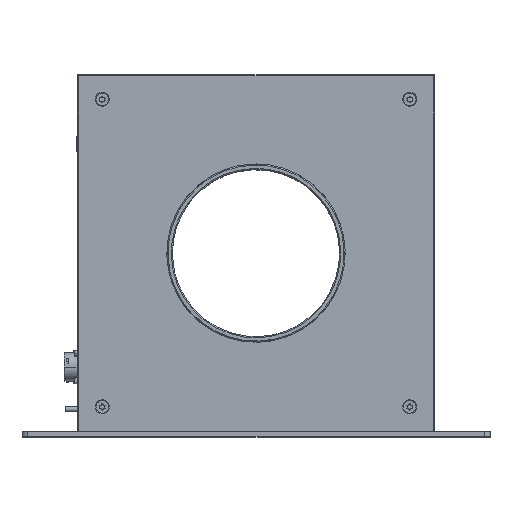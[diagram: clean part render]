
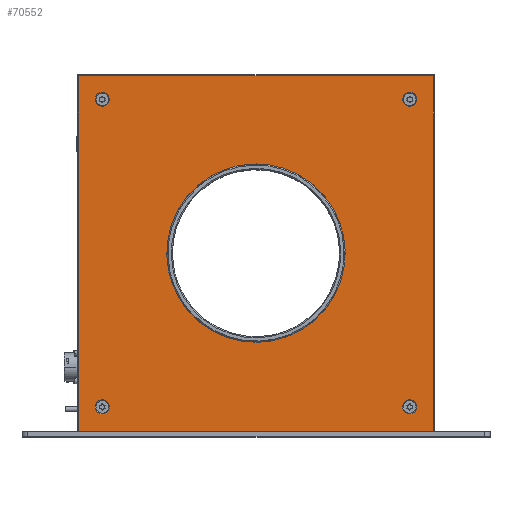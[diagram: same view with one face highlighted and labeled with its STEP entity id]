
A CAD part, top view. The second image highlights one B-rep face of the part: STEP entity #70552.
In plain terms, the highlighted planar face has unit normal (0, 0, 1).
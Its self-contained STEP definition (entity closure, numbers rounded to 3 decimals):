
#2227 = CARTESIAN_POINT ( 'NONE',  ( -35.574, 205.215, 388.556 ) ) ;
#2293 = AXIS2_PLACEMENT_3D ( 'NONE', #57078, #116714, #24958 ) ;
#4712 = CARTESIAN_POINT ( 'NONE',  ( 102.183, 342.972, 388.556 ) ) ;
#10696 = EDGE_CURVE ( 'NONE', #127913, #118549, #119993, .T. ) ;
#12430 = AXIS2_PLACEMENT_3D ( 'NONE', #82660, #81714, #51384 ) ;
#13490 = CARTESIAN_POINT ( 'NONE',  ( 123.183, 44.972, 388.556 ) ) ;
#14971 = VECTOR ( 'NONE', #24189, 1000. ) ;
#15058 = FACE_BOUND ( 'NONE', #70583, .T. ) ;
#15350 = ORIENTED_EDGE ( 'NONE', *, *, #10696, .F. ) ;
#16759 = ORIENTED_EDGE ( 'NONE', *, *, #34316, .F. ) ;
#20572 = AXIS2_PLACEMENT_3D ( 'NONE', #2227, #74572, #148030 ) ;
#23847 = AXIS2_PLACEMENT_3D ( 'NONE', #171073, #37029, #96635 ) ;
#24189 = DIRECTION ( 'NONE',  ( 0., -1., 0. ) ) ;
#24958 = DIRECTION ( 'NONE',  ( 1., 0., 0. ) ) ;
#25232 = DIRECTION ( 'NONE',  ( -1., 0., 0. ) ) ;
#26373 = VECTOR ( 'NONE', #113511, 1000. ) ;
#27168 = CIRCLE ( 'NONE', #123830, 6.3 ) ;
#27450 = VERTEX_POINT ( 'NONE', #185308 ) ;
#29003 = EDGE_LOOP ( 'NONE', ( #16759, #72407 ) ) ;
#29161 = CARTESIAN_POINT ( 'NONE',  ( -194.817, 363.972, 388.556 ) ) ;
#30638 = DIRECTION ( 'NONE',  ( -1., 0., 0. ) ) ;
#31865 = EDGE_CURVE ( 'NONE', #141277, #182936, #145607, .T. ) ;
#32399 = EDGE_LOOP ( 'NONE', ( #126329, #170514, #149309, #182625 ) ) ;
#34316 = EDGE_CURVE ( 'NONE', #191826, #71406, #37101, .T. ) ;
#37029 = DIRECTION ( 'NONE',  ( 0., 0., 1. ) ) ;
#37101 = CIRCLE ( 'NONE', #115113, 6.3 ) ;
#37284 = VERTEX_POINT ( 'NONE', #180439 ) ;
#37307 = AXIS2_PLACEMENT_3D ( 'NONE', #57373, #117962, #55463 ) ;
#38262 = CARTESIAN_POINT ( 'NONE',  ( 108.483, 342.972, 388.556 ) ) ;
#39044 = CARTESIAN_POINT ( 'NONE',  ( -167.517, 342.972, 388.556 ) ) ;
#39217 = LINE ( 'NONE', #185999, #26373 ) ;
#41324 = VERTEX_POINT ( 'NONE', #29161 ) ;
#42155 = CARTESIAN_POINT ( 'NONE',  ( 102.183, 66.972, 388.556 ) ) ;
#42414 = FACE_OUTER_BOUND ( 'NONE', #32399, .T. ) ;
#42722 = VERTEX_POINT ( 'NONE', #80013 ) ;
#43189 = EDGE_CURVE ( 'NONE', #182936, #141277, #174874, .T. ) ;
#45259 = LINE ( 'NONE', #164627, #83249 ) ;
#48765 = CARTESIAN_POINT ( 'NONE',  ( -167.517, 66.972, 388.556 ) ) ;
#51384 = DIRECTION ( 'NONE',  ( 1., 0., 0. ) ) ;
#51772 = EDGE_CURVE ( 'NONE', #118549, #127913, #120131, .T. ) ;
#54974 = AXIS2_PLACEMENT_3D ( 'NONE', #117735, #118693, #178418 ) ;
#55018 = CIRCLE ( 'NONE', #23847, 6.3 ) ;
#55463 = DIRECTION ( 'NONE',  ( -1., 0., 0. ) ) ;
#56129 = CIRCLE ( 'NONE', #37307, 80. ) ;
#57078 = CARTESIAN_POINT ( 'NONE',  ( -173.817, 342.972, 388.556 ) ) ;
#57373 = CARTESIAN_POINT ( 'NONE',  ( -35.817, 204.972, 388.556 ) ) ;
#57751 = DIRECTION ( 'NONE',  ( 1., 0., 0. ) ) ;
#58885 = CARTESIAN_POINT ( 'NONE',  ( -35.817, 204.972, 388.556 ) ) ;
#63474 = ORIENTED_EDGE ( 'NONE', *, *, #171942, .T. ) ;
#70552 = ADVANCED_FACE ( 'NONE', ( #76463, #149001, #136165, #15058, #42414, #165579 ), #88288, .F. ) ;
#70583 = EDGE_LOOP ( 'NONE', ( #174394, #123521 ) ) ;
#71406 = VERTEX_POINT ( 'NONE', #112084 ) ;
#72407 = ORIENTED_EDGE ( 'NONE', *, *, #79550, .F. ) ;
#74572 = DIRECTION ( 'NONE',  ( 0., 0., -1. ) ) ;
#74866 = CIRCLE ( 'NONE', #90333, 80. ) ;
#76463 = FACE_BOUND ( 'NONE', #155826, .T. ) ;
#78220 = DIRECTION ( 'NONE',  ( 1., 0., 0. ) ) ;
#79550 = EDGE_CURVE ( 'NONE', #71406, #191826, #108538, .T. ) ;
#80013 = CARTESIAN_POINT ( 'NONE',  ( 123.183, 363.972, 388.556 ) ) ;
#81707 = CARTESIAN_POINT ( 'NONE',  ( 108.483, 66.972, 388.556 ) ) ;
#81714 = DIRECTION ( 'NONE',  ( 0., 0., 1. ) ) ;
#82660 = CARTESIAN_POINT ( 'NONE',  ( -173.817, 66.972, 388.556 ) ) ;
#83249 = VECTOR ( 'NONE', #30638, 1000. ) ;
#84150 = DIRECTION ( 'NONE',  ( 0., 0., 1. ) ) ;
#87360 = VECTOR ( 'NONE', #25232, 1000. ) ;
#88288 = PLANE ( 'NONE',  #20572 ) ;
#89986 = EDGE_LOOP ( 'NONE', ( #63474, #112971 ) ) ;
#90333 = AXIS2_PLACEMENT_3D ( 'NONE', #58885, #119447, #160634 ) ;
#90418 = VERTEX_POINT ( 'NONE', #189406 ) ;
#93373 = EDGE_CURVE ( 'NONE', #182478, #159714, #45259, .T. ) ;
#95134 = AXIS2_PLACEMENT_3D ( 'NONE', #4712, #171978, #109322 ) ;
#95733 = EDGE_CURVE ( 'NONE', #41324, #159714, #115926, .T. ) ;
#96635 = DIRECTION ( 'NONE',  ( 1., 0., 0. ) ) ;
#99792 = DIRECTION ( 'NONE',  ( 1., 0., 0. ) ) ;
#104364 = AXIS2_PLACEMENT_3D ( 'NONE', #189860, #84150, #99792 ) ;
#104995 = CARTESIAN_POINT ( 'NONE',  ( -35.574, 363.972, 388.556 ) ) ;
#105726 = CARTESIAN_POINT ( 'NONE',  ( -173.817, 342.972, 388.556 ) ) ;
#108538 = CIRCLE ( 'NONE', #2293, 6.3 ) ;
#109322 = DIRECTION ( 'NONE',  ( 1., 0., 0. ) ) ;
#111331 = EDGE_CURVE ( 'NONE', #37284, #90418, #74866, .T. ) ;
#112084 = CARTESIAN_POINT ( 'NONE',  ( -180.117, 342.972, 388.556 ) ) ;
#112971 = ORIENTED_EDGE ( 'NONE', *, *, #111331, .T. ) ;
#113511 = DIRECTION ( 'NONE',  ( 0., 1., 0. ) ) ;
#115113 = AXIS2_PLACEMENT_3D ( 'NONE', #105726, #151747, #78220 ) ;
#115926 = LINE ( 'NONE', #187481, #14971 ) ;
#116714 = DIRECTION ( 'NONE',  ( 0., 0., 1. ) ) ;
#117735 = CARTESIAN_POINT ( 'NONE',  ( -173.817, 66.972, 388.556 ) ) ;
#117962 = DIRECTION ( 'NONE',  ( 0., 0., -1. ) ) ;
#118549 = VERTEX_POINT ( 'NONE', #156798 ) ;
#118693 = DIRECTION ( 'NONE',  ( 0., 0., 1. ) ) ;
#119447 = DIRECTION ( 'NONE',  ( 0., 0., -1. ) ) ;
#119993 = CIRCLE ( 'NONE', #104364, 6.3 ) ;
#120131 = CIRCLE ( 'NONE', #95134, 6.3 ) ;
#121217 = VERTEX_POINT ( 'NONE', #81707 ) ;
#121818 = ORIENTED_EDGE ( 'NONE', *, *, #31865, .F. ) ;
#123521 = ORIENTED_EDGE ( 'NONE', *, *, #128046, .F. ) ;
#123830 = AXIS2_PLACEMENT_3D ( 'NONE', #42155, #191813, #57751 ) ;
#126329 = ORIENTED_EDGE ( 'NONE', *, *, #93373, .F. ) ;
#126865 = EDGE_CURVE ( 'NONE', #121217, #27450, #55018, .T. ) ;
#127913 = VERTEX_POINT ( 'NONE', #38262 ) ;
#128046 = EDGE_CURVE ( 'NONE', #27450, #121217, #27168, .T. ) ;
#128095 = EDGE_LOOP ( 'NONE', ( #15350, #137809 ) ) ;
#135403 = CARTESIAN_POINT ( 'NONE',  ( -180.117, 66.972, 388.556 ) ) ;
#136165 = FACE_BOUND ( 'NONE', #128095, .T. ) ;
#137809 = ORIENTED_EDGE ( 'NONE', *, *, #51772, .F. ) ;
#141277 = VERTEX_POINT ( 'NONE', #135403 ) ;
#145607 = CIRCLE ( 'NONE', #54974, 6.3 ) ;
#148030 = DIRECTION ( 'NONE',  ( -1., 0., 0. ) ) ;
#148407 = CARTESIAN_POINT ( 'NONE',  ( -194.817, 44.972, 388.556 ) ) ;
#149001 = FACE_BOUND ( 'NONE', #29003, .T. ) ;
#149309 = ORIENTED_EDGE ( 'NONE', *, *, #158647, .T. ) ;
#151747 = DIRECTION ( 'NONE',  ( 0., 0., 1. ) ) ;
#155826 = EDGE_LOOP ( 'NONE', ( #188599, #121818 ) ) ;
#156798 = CARTESIAN_POINT ( 'NONE',  ( 95.883, 342.972, 388.556 ) ) ;
#158647 = EDGE_CURVE ( 'NONE', #42722, #41324, #188564, .T. ) ;
#159714 = VERTEX_POINT ( 'NONE', #148407 ) ;
#160634 = DIRECTION ( 'NONE',  ( -1., 0., 0. ) ) ;
#162770 = EDGE_CURVE ( 'NONE', #182478, #42722, #39217, .T. ) ;
#164627 = CARTESIAN_POINT ( 'NONE',  ( 124.183, 44.972, 388.556 ) ) ;
#165579 = FACE_BOUND ( 'NONE', #89986, .T. ) ;
#170514 = ORIENTED_EDGE ( 'NONE', *, *, #162770, .T. ) ;
#171073 = CARTESIAN_POINT ( 'NONE',  ( 102.183, 66.972, 388.556 ) ) ;
#171942 = EDGE_CURVE ( 'NONE', #90418, #37284, #56129, .T. ) ;
#171978 = DIRECTION ( 'NONE',  ( 0., 0., 1. ) ) ;
#174394 = ORIENTED_EDGE ( 'NONE', *, *, #126865, .F. ) ;
#174874 = CIRCLE ( 'NONE', #12430, 6.3 ) ;
#178418 = DIRECTION ( 'NONE',  ( 1., 0., 0. ) ) ;
#180439 = CARTESIAN_POINT ( 'NONE',  ( 44.183, 204.972, 388.556 ) ) ;
#182478 = VERTEX_POINT ( 'NONE', #13490 ) ;
#182625 = ORIENTED_EDGE ( 'NONE', *, *, #95733, .T. ) ;
#182936 = VERTEX_POINT ( 'NONE', #48765 ) ;
#185308 = CARTESIAN_POINT ( 'NONE',  ( 95.883, 66.972, 388.556 ) ) ;
#185999 = CARTESIAN_POINT ( 'NONE',  ( 123.183, 205.215, 388.556 ) ) ;
#187481 = CARTESIAN_POINT ( 'NONE',  ( -194.817, 205.215, 388.556 ) ) ;
#188564 = LINE ( 'NONE', #104995, #87360 ) ;
#188599 = ORIENTED_EDGE ( 'NONE', *, *, #43189, .F. ) ;
#189406 = CARTESIAN_POINT ( 'NONE',  ( -115.817, 204.972, 388.556 ) ) ;
#189860 = CARTESIAN_POINT ( 'NONE',  ( 102.183, 342.972, 388.556 ) ) ;
#191813 = DIRECTION ( 'NONE',  ( 0., 0., 1. ) ) ;
#191826 = VERTEX_POINT ( 'NONE', #39044 ) ;
